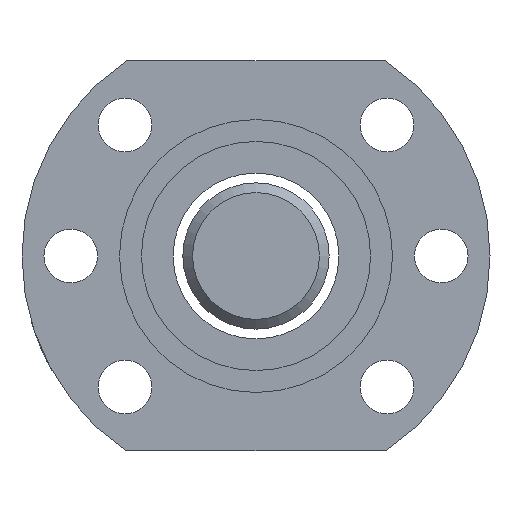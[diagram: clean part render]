
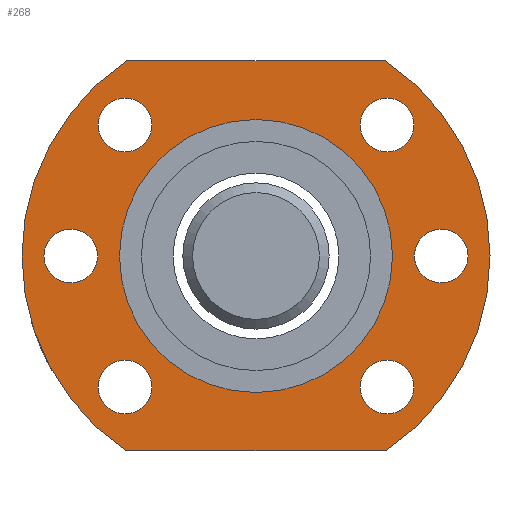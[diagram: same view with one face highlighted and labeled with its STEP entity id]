
A CAD part, left-side view. The second image highlights one B-rep face of the part: STEP entity #268.
In plain terms, the highlighted planar face has unit normal (-1, 0, 0).
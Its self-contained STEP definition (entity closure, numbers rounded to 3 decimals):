
#3 = EDGE_CURVE ( 'NONE', #1654, #1654, #508, .T. ) ;
#44 = EDGE_CURVE ( 'NONE', #2267, #2267, #2216, .T. ) ;
#73 = CIRCLE ( 'NONE', #566, 2.75 ) ;
#85 = CARTESIAN_POINT ( 'NONE',  ( -26.222, -51.547, -10.935 ) ) ;
#87 = CARTESIAN_POINT ( 'NONE',  ( -26.222, -32.547, 3.065 ) ) ;
#88 = AXIS2_PLACEMENT_3D ( 'NONE', #1417, #1444, #466 ) ;
#96 = EDGE_LOOP ( 'NONE', ( #142 ) ) ;
#109 = AXIS2_PLACEMENT_3D ( 'NONE', #1033, #465, #235 ) ;
#121 = CARTESIAN_POINT ( 'NONE',  ( -26.222, -70.547, 5.815 ) ) ;
#124 = DIRECTION ( 'NONE',  ( 0., 0., -1. ) ) ;
#142 = ORIENTED_EDGE ( 'NONE', *, *, #44, .F. ) ;
#149 = FACE_BOUND ( 'NONE', #96, .T. ) ;
#179 = EDGE_LOOP ( 'NONE', ( #2368 ) ) ;
#181 = EDGE_LOOP ( 'NONE', ( #330 ) ) ;
#208 = EDGE_CURVE ( 'NONE', #1768, #410, #1153, .T. ) ;
#209 = CARTESIAN_POINT ( 'NONE',  ( -26.222, -64.814, -16.935 ) ) ;
#235 = DIRECTION ( 'NONE',  ( 0., 0., 1. ) ) ;
#268 = ADVANCED_FACE ( 'NONE', ( #1292, #882, #544, #1126, #149, #2483, #1075, #694 ), #1471, .T. ) ;
#276 = VERTEX_POINT ( 'NONE', #314 ) ;
#290 = DIRECTION ( 'NONE',  ( 0., 0., 1. ) ) ;
#304 = CARTESIAN_POINT ( 'NONE',  ( -26.222, -51.547, 3.065 ) ) ;
#314 = CARTESIAN_POINT ( 'NONE',  ( -26.222, -64.982, 19.25 ) ) ;
#325 = EDGE_CURVE ( 'NONE', #1492, #1768, #1772, .T. ) ;
#330 = ORIENTED_EDGE ( 'NONE', *, *, #2100, .F. ) ;
#349 = CARTESIAN_POINT ( 'NONE',  ( -26.222, -51.547, 3.065 ) ) ;
#358 = CIRCLE ( 'NONE', #2233, 2.75 ) ;
#380 = VERTEX_POINT ( 'NONE', #1927 ) ;
#410 = VERTEX_POINT ( 'NONE', #1569 ) ;
#458 = LINE ( 'NONE', #1411, #1230 ) ;
#463 = AXIS2_PLACEMENT_3D ( 'NONE', #984, #1425, #810 ) ;
#465 = DIRECTION ( 'NONE',  ( 1., 0., 0. ) ) ;
#466 = DIRECTION ( 'NONE',  ( 0., 0., 1. ) ) ;
#488 = VERTEX_POINT ( 'NONE', #1832 ) ;
#490 = DIRECTION ( 'NONE',  ( -1., 0., 0. ) ) ;
#508 = CIRCLE ( 'NONE', #1560, 14. ) ;
#524 = DIRECTION ( 'NONE',  ( -1., 0., 0. ) ) ;
#536 = EDGE_CURVE ( 'NONE', #2046, #2046, #1722, .T. ) ;
#544 = FACE_BOUND ( 'NONE', #179, .T. ) ;
#566 = AXIS2_PLACEMENT_3D ( 'NONE', #1752, #778, #1557 ) ;
#681 = CIRCLE ( 'NONE', #2105, 24. ) ;
#685 = ORIENTED_EDGE ( 'NONE', *, *, #325, .T. ) ;
#694 = FACE_BOUND ( 'NONE', #1514, .T. ) ;
#702 = ORIENTED_EDGE ( 'NONE', *, *, #3, .F. ) ;
#704 = CIRCLE ( 'NONE', #463, 2.75 ) ;
#716 = DIRECTION ( 'NONE',  ( -1., 0., 0. ) ) ;
#726 = DIRECTION ( 'NONE',  ( -1., 0., 0. ) ) ;
#778 = DIRECTION ( 'NONE',  ( -1., 0., 0. ) ) ;
#810 = DIRECTION ( 'NONE',  ( 0., 0., 1. ) ) ;
#812 = ORIENTED_EDGE ( 'NONE', *, *, #1482, .T. ) ;
#819 = EDGE_CURVE ( 'NONE', #410, #1308, #458, .T. ) ;
#844 = ORIENTED_EDGE ( 'NONE', *, *, #904, .T. ) ;
#882 = FACE_BOUND ( 'NONE', #2032, .T. ) ;
#884 = CARTESIAN_POINT ( 'NONE',  ( -26.222, -38.112, -10.37 ) ) ;
#904 = EDGE_CURVE ( 'NONE', #488, #488, #704, .T. ) ;
#911 = VECTOR ( 'NONE', #2337, 1000. ) ;
#941 = ORIENTED_EDGE ( 'NONE', *, *, #208, .T. ) ;
#984 = CARTESIAN_POINT ( 'NONE',  ( -26.222, -64.982, -10.37 ) ) ;
#986 = EDGE_LOOP ( 'NONE', ( #702 ) ) ;
#998 = ORIENTED_EDGE ( 'NONE', *, *, #536, .T. ) ;
#1033 = CARTESIAN_POINT ( 'NONE',  ( -26.222, -64.982, 16.5 ) ) ;
#1058 = DIRECTION ( 'NONE',  ( 0., 0., -1. ) ) ;
#1075 = FACE_BOUND ( 'NONE', #986, .T. ) ;
#1126 = FACE_BOUND ( 'NONE', #181, .T. ) ;
#1153 = CIRCLE ( 'NONE', #1195, 24. ) ;
#1195 = AXIS2_PLACEMENT_3D ( 'NONE', #349, #716, #2260 ) ;
#1204 = DIRECTION ( 'NONE',  ( 0., -1., 0. ) ) ;
#1214 = EDGE_CURVE ( 'NONE', #276, #276, #2430, .T. ) ;
#1230 = VECTOR ( 'NONE', #1204, 1000. ) ;
#1292 = FACE_BOUND ( 'NONE', #1361, .T. ) ;
#1308 = VERTEX_POINT ( 'NONE', #209 ) ;
#1361 = EDGE_LOOP ( 'NONE', ( #2058 ) ) ;
#1411 = CARTESIAN_POINT ( 'NONE',  ( -26.222, -38.281, -16.935 ) ) ;
#1417 = CARTESIAN_POINT ( 'NONE',  ( -26.222, -70.547, 3.065 ) ) ;
#1425 = DIRECTION ( 'NONE',  ( 1., 0., 0. ) ) ;
#1444 = DIRECTION ( 'NONE',  ( 1., 0., 0. ) ) ;
#1471 = PLANE ( 'NONE',  #2131 ) ;
#1482 = EDGE_CURVE ( 'NONE', #1308, #1492, #681, .T. ) ;
#1492 = VERTEX_POINT ( 'NONE', #2270 ) ;
#1514 = EDGE_LOOP ( 'NONE', ( #998 ) ) ;
#1557 = DIRECTION ( 'NONE',  ( 0., 0., 1. ) ) ;
#1560 = AXIS2_PLACEMENT_3D ( 'NONE', #2264, #524, #1058 ) ;
#1569 = CARTESIAN_POINT ( 'NONE',  ( -26.222, -38.281, -16.935 ) ) ;
#1654 = VERTEX_POINT ( 'NONE', #85 ) ;
#1708 = CARTESIAN_POINT ( 'NONE',  ( -26.222, -38.112, 19.25 ) ) ;
#1722 = CIRCLE ( 'NONE', #88, 2.75 ) ;
#1752 = CARTESIAN_POINT ( 'NONE',  ( -26.222, -38.112, 16.5 ) ) ;
#1768 = VERTEX_POINT ( 'NONE', #2238 ) ;
#1772 = LINE ( 'NONE', #1934, #911 ) ;
#1774 = EDGE_CURVE ( 'NONE', #380, #380, #358, .T. ) ;
#1832 = CARTESIAN_POINT ( 'NONE',  ( -26.222, -64.982, -7.62 ) ) ;
#1865 = DIRECTION ( 'NONE',  ( -1., 0., 0. ) ) ;
#1884 = CARTESIAN_POINT ( 'NONE',  ( -26.222, -32.547, 5.815 ) ) ;
#1907 = VERTEX_POINT ( 'NONE', #1708 ) ;
#1927 = CARTESIAN_POINT ( 'NONE',  ( -26.222, -38.112, -7.62 ) ) ;
#1934 = CARTESIAN_POINT ( 'NONE',  ( -26.222, -64.814, 23.065 ) ) ;
#1959 = DIRECTION ( 'NONE',  ( 0., 0., 1. ) ) ;
#2032 = EDGE_LOOP ( 'NONE', ( #844 ) ) ;
#2046 = VERTEX_POINT ( 'NONE', #121 ) ;
#2047 = AXIS2_PLACEMENT_3D ( 'NONE', #87, #490, #290 ) ;
#2058 = ORIENTED_EDGE ( 'NONE', *, *, #1214, .T. ) ;
#2100 = EDGE_CURVE ( 'NONE', #1907, #1907, #73, .T. ) ;
#2105 = AXIS2_PLACEMENT_3D ( 'NONE', #304, #726, #124 ) ;
#2131 = AXIS2_PLACEMENT_3D ( 'NONE', #2248, #2507, #1959 ) ;
#2187 = ORIENTED_EDGE ( 'NONE', *, *, #819, .T. ) ;
#2216 = CIRCLE ( 'NONE', #2047, 2.75 ) ;
#2233 = AXIS2_PLACEMENT_3D ( 'NONE', #884, #1865, #2251 ) ;
#2238 = CARTESIAN_POINT ( 'NONE',  ( -26.222, -38.281, 23.065 ) ) ;
#2248 = CARTESIAN_POINT ( 'NONE',  ( -26.222, -51.547, 3.065 ) ) ;
#2251 = DIRECTION ( 'NONE',  ( 0., 0., 1. ) ) ;
#2260 = DIRECTION ( 'NONE',  ( 0., 0., -1. ) ) ;
#2264 = CARTESIAN_POINT ( 'NONE',  ( -26.222, -51.547, 3.065 ) ) ;
#2266 = EDGE_LOOP ( 'NONE', ( #941, #2187, #812, #685 ) ) ;
#2267 = VERTEX_POINT ( 'NONE', #1884 ) ;
#2270 = CARTESIAN_POINT ( 'NONE',  ( -26.222, -64.814, 23.065 ) ) ;
#2337 = DIRECTION ( 'NONE',  ( 0., 1., 0. ) ) ;
#2368 = ORIENTED_EDGE ( 'NONE', *, *, #1774, .F. ) ;
#2430 = CIRCLE ( 'NONE', #109, 2.75 ) ;
#2483 = FACE_OUTER_BOUND ( 'NONE', #2266, .T. ) ;
#2507 = DIRECTION ( 'NONE',  ( -1., 0., 0. ) ) ;
